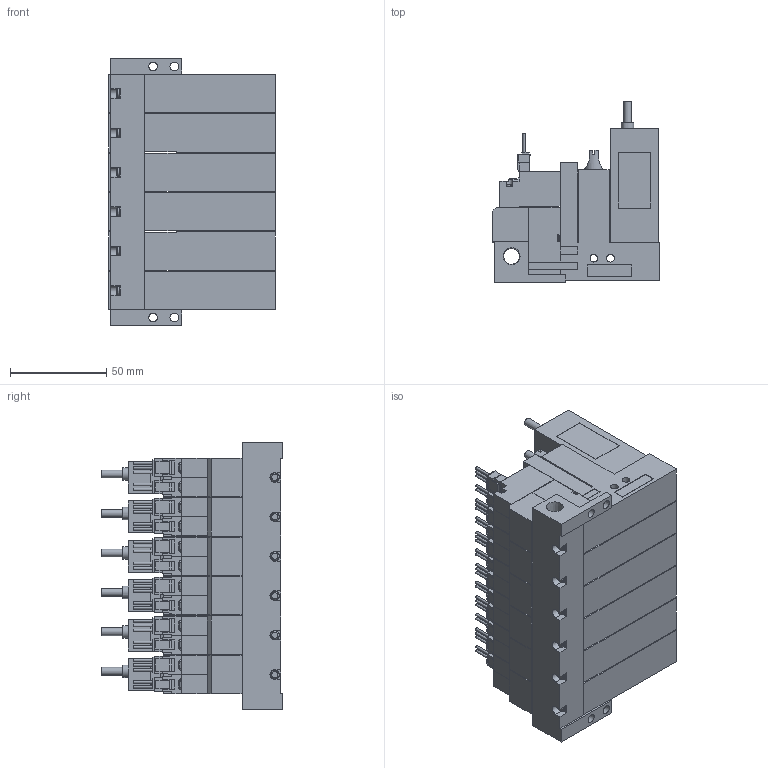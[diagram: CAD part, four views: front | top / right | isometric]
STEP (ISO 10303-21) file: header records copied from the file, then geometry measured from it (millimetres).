
FILE_DESCRIPTION(('STEP AP203'),'1');
FILE_NAME('VG_VGPL5WLR606.stp','2025-02-19T02:26:25',(' '),(' '),'Spatial InterOp 3D',' ',' ');
FILE_SCHEMA(('CONFIG_CONTROL_DESIGN'));
Length unit declared in the file: millimetre
Products named in the file (5): BMC22M※※※※VG_VGPL5WLR606; Solenoid valve W; Pressure sensor VGL; Unit L; Base MR60R
Assembly tree (19 placements, depth 2):
  BMC22M※※※※VG_VGPL5WLR606
    Solenoid valve W  x6
    Pressure sensor VGL  x6
    Unit L  x6
    Base MR60R
Bounding box: 86.6 x 94 x 138.5 mm (x, y, z)
Volume: 601940.1 mm3; surface area: 162441.9 mm2
Topology: 19 solids, 19 shells, 2181 faces, 5831 edges, 3862 vertices
Faces by surface type: plane 1838, cylinder 281, cone 44, torus 18
Full cylindrical faces by diameter (mm): 1.4 x30, 2.5 x18, 3 x24, 3.5 x24, 3.6 x6, 4 x36, 4.134 x6, 4.5 x4, 5.2 x6, 6 x6, 6.5 x6, 6.6 x6, 8.279 x1
Entity records: 14183 total; most frequent: CARTESIAN_POINT 2708, DIRECTION 2271, ORIENTED_EDGE 2182, EDGE_CURVE 1091, LINE 863, VECTOR 863, VERTEX_POINT 771, AXIS2_PLACEMENT_3D 704
